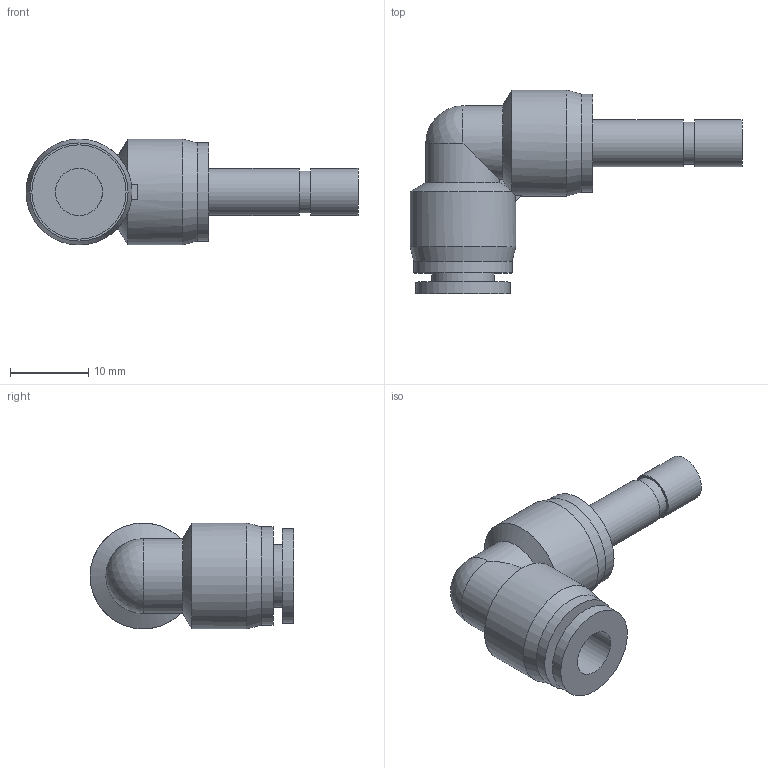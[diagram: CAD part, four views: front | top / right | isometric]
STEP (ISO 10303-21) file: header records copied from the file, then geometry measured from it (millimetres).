
FILE_DESCRIPTION((''),'2;1');
FILE_NAME('S:\UTecnico\ArchivioUT\Speciali Clienti\Speciali KONFIT\Plastica\RP\06\RP 85\RP850006.stp','2012-05-07T10:41:16',('UT5'),(''),'Autodesk Inventor 2012','Autodesk Inventor 2012','');
FILE_SCHEMA(('AUTOMOTIVE_DESIGN { 1 0 10303 214 1 1 1 1 }'));
Length unit declared in the file: millimetre
Products named in the file (1): RP850006
Bounding box: 42.3 x 25.95 x 13.5 mm (x, y, z)
Volume: 3718.3 mm3; surface area: 2812.8 mm2
Topology: 1 solids, 1 shells, 31 faces, 66 edges, 43 vertices
Faces by surface type: cylinder 13, plane 13, cone 4, sphere 1
Full cylindrical faces by diameter (mm): 3 x1, 5.35 x1, 6 x3, 8 x1, 12 x1, 12.5 x2, 13.5 x2
Entity records: 830 total; most frequent: CARTESIAN_POINT 173, DIRECTION 136, ORIENTED_EDGE 96, AXIS2_PLACEMENT_3D 63, EDGE_LOOP 52, EDGE_CURVE 48, VERTEX_POINT 38, FACE_OUTER_BOUND 31
